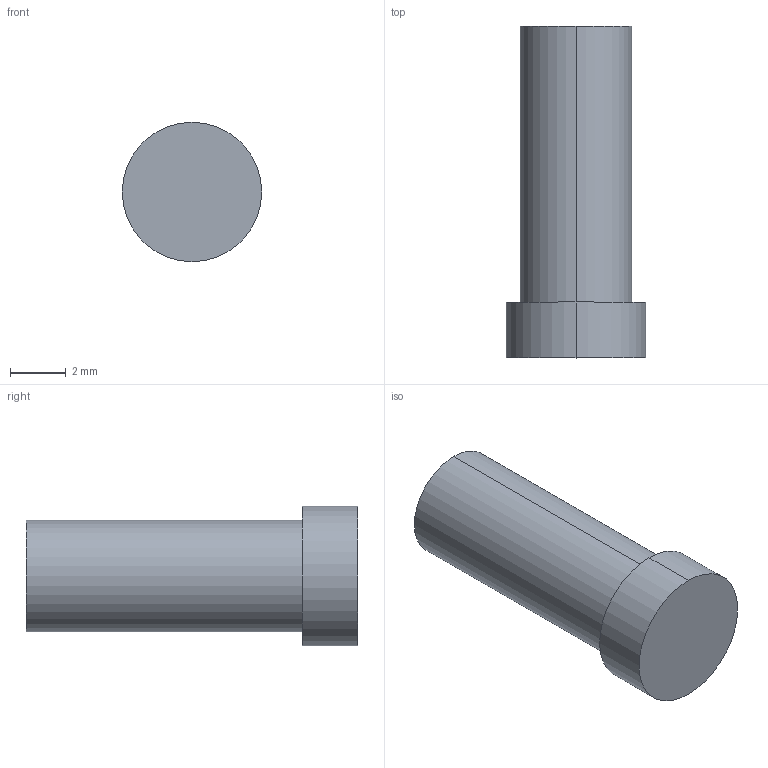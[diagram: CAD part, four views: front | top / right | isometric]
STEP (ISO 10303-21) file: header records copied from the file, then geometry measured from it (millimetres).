
FILE_DESCRIPTION (( 'STEP AP214' ), '1' );
FILE_NAME ('Pug_4_tijera.STEP', '2025-06-15T00:41:12', ( '' ), ( '' ), 'SwSTEP 2.0', 'SolidWorks 2024', '' );
FILE_SCHEMA (( 'AUTOMOTIVE_DESIGN' ));
Length unit declared in the file: millimetre
Products named in the file (1): Pug_4_tijera
Bounding box: 5 x 11.9 x 5 mm (x, y, z)
Volume: 118.9 mm3; surface area: 269.7 mm2
Topology: 1 solids, 1 shells, 10 faces, 18 edges, 12 vertices
Faces by surface type: cylinder 6, plane 4
Entity records: 277 total; most frequent: DIRECTION 52, CARTESIAN_POINT 41, ORIENTED_EDGE 36, AXIS2_PLACEMENT_3D 23, EDGE_CURVE 18, VERTEX_POINT 12, EDGE_LOOP 12, CIRCLE 12
